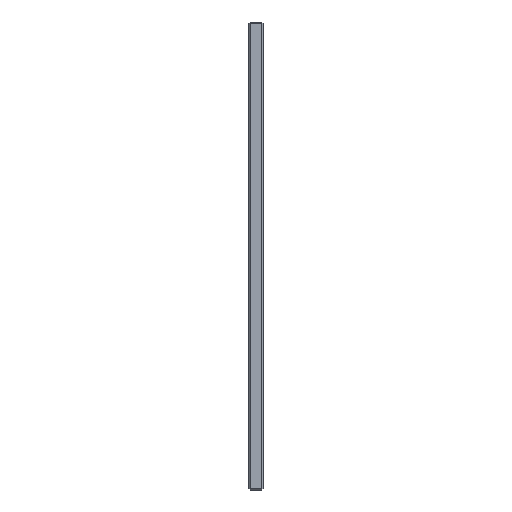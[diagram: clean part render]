
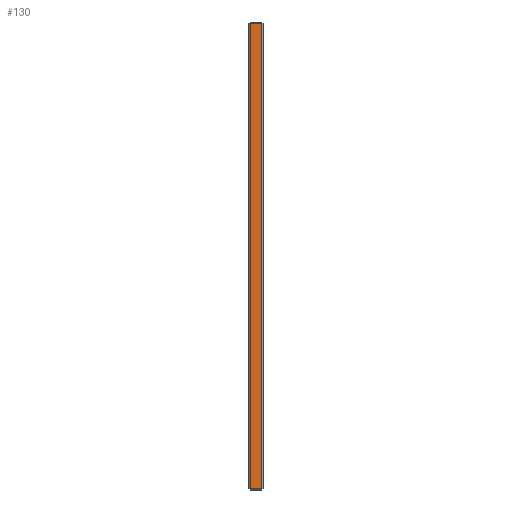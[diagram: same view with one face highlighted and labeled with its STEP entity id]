
A CAD part, left-side view. The second image highlights one B-rep face of the part: STEP entity #130.
In plain terms, the highlighted planar face has unit normal (-1, 0, 0).
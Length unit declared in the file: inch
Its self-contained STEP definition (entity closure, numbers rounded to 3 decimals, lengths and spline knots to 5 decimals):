
#13 = EDGE_CURVE ( 'NONE', #2043, #1326, #1931, .T. ) ;
#105 = VERTEX_POINT ( 'NONE', #234 ) ;
#130 = ADVANCED_FACE ( 'Placement Plane', ( #1420 ), #402, .F. ) ;
#217 = VERTEX_POINT ( 'NONE', #1721 ) ;
#234 = CARTESIAN_POINT ( 'NONE',  ( -11.8125, 0.45, 8.1375 ) ) ;
#242 = DIRECTION ( 'NONE',  ( 0., 0., -1. ) ) ;
#273 = DIRECTION ( 'NONE',  ( 0., -1., 0. ) ) ;
#329 = VECTOR ( 'NONE', #1109, 39.37008 ) ;
#376 = CARTESIAN_POINT ( 'NONE',  ( -11.8125, 0.05, -8.1375 ) ) ;
#402 = PLANE ( 'NONE',  #406 ) ;
#406 = AXIS2_PLACEMENT_3D ( 'NONE', #873, #1344, #1993 ) ;
#637 = VECTOR ( 'NONE', #242, 39.37008 ) ;
#703 = CARTESIAN_POINT ( 'NONE',  ( -11.8125, 0.05, -8.1875 ) ) ;
#716 = ORIENTED_EDGE ( 'NONE', *, *, #13, .T. ) ;
#757 = LINE ( 'NONE', #1722, #1620 ) ;
#873 = CARTESIAN_POINT ( 'NONE',  ( -11.8125, 0.5, -8.1875 ) ) ;
#874 = CARTESIAN_POINT ( 'NONE',  ( -11.8125, 0.45, -8.1875 ) ) ;
#930 = LINE ( 'NONE', #1288, #329 ) ;
#946 = ORIENTED_EDGE ( 'NONE', *, *, #1605, .T. ) ;
#1004 = LINE ( 'NONE', #874, #637 ) ;
#1020 = DIRECTION ( 'NONE',  ( 0., 0., 1. ) ) ;
#1109 = DIRECTION ( 'NONE',  ( 0., 1., 0. ) ) ;
#1131 = VECTOR ( 'NONE', #1020, 39.37008 ) ;
#1288 = CARTESIAN_POINT ( 'NONE',  ( -11.8125, 0.5, 8.1375 ) ) ;
#1301 = ORIENTED_EDGE ( 'NONE', *, *, #1364, .T. ) ;
#1326 = VERTEX_POINT ( 'NONE', #1739 ) ;
#1344 = DIRECTION ( 'NONE',  ( 1., 0., 0. ) ) ;
#1364 = EDGE_CURVE ( 'NONE', #1326, #105, #930, .T. ) ;
#1420 = FACE_OUTER_BOUND ( 'NONE', #1742, .T. ) ;
#1496 = ORIENTED_EDGE ( 'NONE', *, *, #1789, .T. ) ;
#1605 = EDGE_CURVE ( 'NONE', #105, #217, #1004, .T. ) ;
#1620 = VECTOR ( 'NONE', #273, 39.37008 ) ;
#1721 = CARTESIAN_POINT ( 'NONE',  ( -11.8125, 0.45, -8.1375 ) ) ;
#1722 = CARTESIAN_POINT ( 'NONE',  ( -11.8125, 0.5, -8.1375 ) ) ;
#1739 = CARTESIAN_POINT ( 'NONE',  ( -11.8125, 0.05, 8.1375 ) ) ;
#1742 = EDGE_LOOP ( 'NONE', ( #946, #1496, #716, #1301 ) ) ;
#1789 = EDGE_CURVE ( 'NONE', #217, #2043, #757, .T. ) ;
#1931 = LINE ( 'NONE', #703, #1131 ) ;
#1993 = DIRECTION ( 'NONE',  ( 0., 0., -1. ) ) ;
#2043 = VERTEX_POINT ( 'NONE', #376 ) ;
